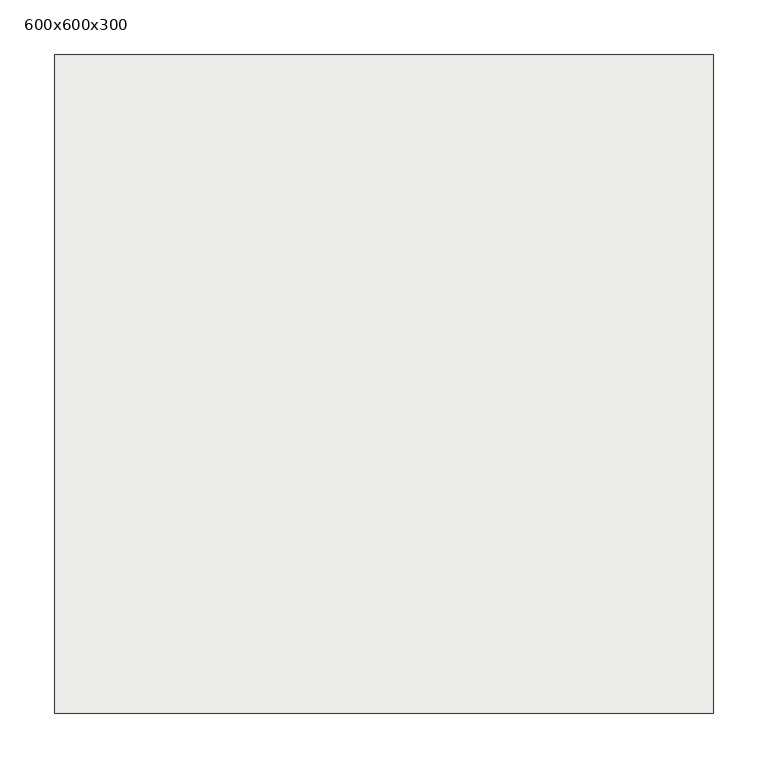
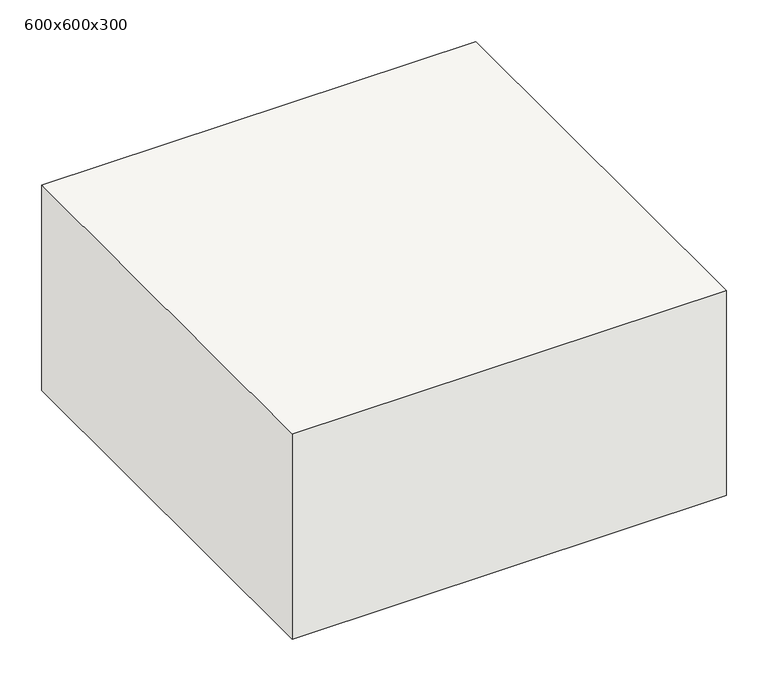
"""IFC4 building model written with IfcOpenShell, lengths in millimetres: slab geometry, 独立基础 : 600x600x300."""

from ifc_helpers import new_model, si_unit, frame, origin, place, context, project, spatial, polyline, outline, extrude, source, transform, mapped, element, save


def slab_600x600x300_884aa3a3(model_context):
    return source(origin(), model_context, "Body", "SweptSolid", [
        extrude(outline(polyline([(300.0, 300.0), (300.0, -300.0), (-300.0, -300.0), (-300.0, 300.0), (300.0, 300.0)])), frame((0.0, 0.0, -300.0), z_axis=(0.0, 0.0, 1.0), x_axis=(1.0, 0.0, 0.0)), (0.0, 0.0, 1.0), 300.0),
    ])


if __name__ == "__main__":
    model = new_model("IFC4")
    model_context = context("Model", 3, world=origin())
    ifc_project = project(units=[si_unit("LENGTHUNIT", "METRE", prefix="MILLI")], contexts=[model_context])
    site = spatial("IfcSite", under=ifc_project)
    building = spatial("IfcBuilding", under=site)
    placement = place(None, origin())
    slab_600x600x300_shape = slab_600x600x300_884aa3a3(model_context)
    element("IfcSlab", 1, ObjectType="独立基础 : 600x600x300", at=placement, inside=building, context=model_context, shape_type="MappedRepresentation", body=[
        mapped(slab_600x600x300_shape, transform((0.0, 0.0, 0.0), x_axis=(1.0, 0.0, 0.0), y_axis=(0.0, 1.0, 0.0), z_axis=(0.0, 0.0, 1.0))),
    ])
    save(model, "model.ifc")
